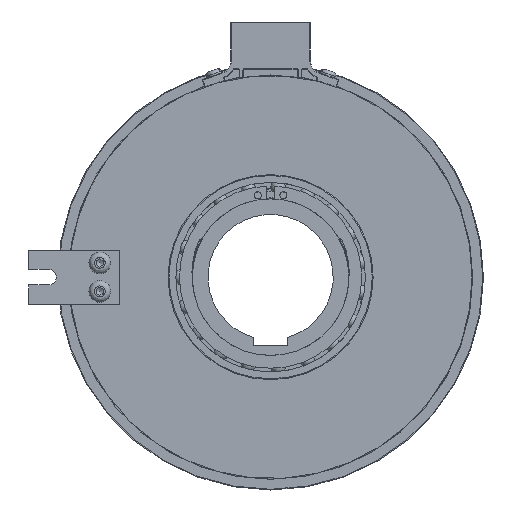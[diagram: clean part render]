
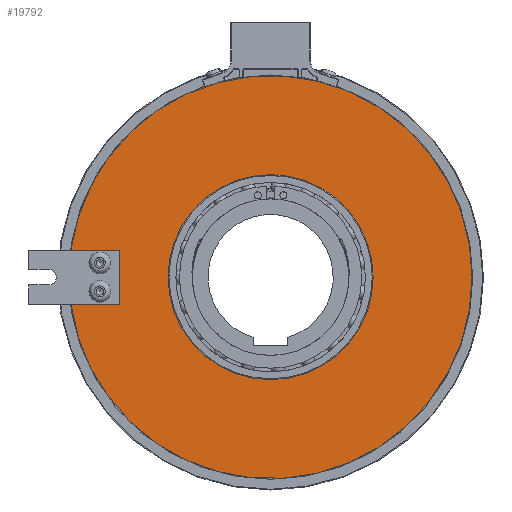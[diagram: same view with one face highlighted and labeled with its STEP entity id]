
A CAD part, left-side view. The second image highlights one B-rep face of the part: STEP entity #19792.
In plain terms, the highlighted planar face has unit normal (-1, 0, 0).
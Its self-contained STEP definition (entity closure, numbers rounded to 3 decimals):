
#1078=FACE_BOUND('',#3362,.T.);
#1471=PLANE('',#21623);
#2306=FACE_OUTER_BOUND('',#3361,.T.);
#3361=EDGE_LOOP('',(#14973,#14974,#14975,#14976,#14977));
#3362=EDGE_LOOP('',(#14978,#14979));
#4515=LINE('',#32014,#5153);
#4516=LINE('',#32016,#5154);
#4517=LINE('',#32017,#5155);
#5153=VECTOR('',#26097,10.);
#5154=VECTOR('',#26098,10.);
#5155=VECTOR('',#26099,10.);
#5348=CIRCLE('',#20364,70.75);
#5351=CIRCLE('',#20367,70.75);
#6150=CIRCLE('',#21624,36.);
#6151=CIRCLE('',#21625,36.);
#7029=VERTEX_POINT('',#29092);
#7030=VERTEX_POINT('',#29094);
#7031=VERTEX_POINT('',#29096);
#7881=VERTEX_POINT('',#32013);
#7882=VERTEX_POINT('',#32015);
#7883=VERTEX_POINT('',#32018);
#7884=VERTEX_POINT('',#32019);
#9252=EDGE_CURVE('',#7031,#7030,#5348,.T.);
#9256=EDGE_CURVE('',#7029,#7031,#5351,.T.);
#10544=EDGE_CURVE('',#7881,#7029,#4515,.T.);
#10545=EDGE_CURVE('',#7030,#7882,#4516,.T.);
#10546=EDGE_CURVE('',#7882,#7881,#4517,.T.);
#10547=EDGE_CURVE('',#7883,#7884,#6150,.T.);
#10548=EDGE_CURVE('',#7884,#7883,#6151,.T.);
#14973=ORIENTED_EDGE('',*,*,#10544,.T.);
#14974=ORIENTED_EDGE('',*,*,#9256,.T.);
#14975=ORIENTED_EDGE('',*,*,#9252,.T.);
#14976=ORIENTED_EDGE('',*,*,#10545,.T.);
#14977=ORIENTED_EDGE('',*,*,#10546,.T.);
#14978=ORIENTED_EDGE('',*,*,#10547,.F.);
#14979=ORIENTED_EDGE('',*,*,#10548,.F.);
#19792=ADVANCED_FACE('',(#2306,#1078),#1471,.T.);
#20364=AXIS2_PLACEMENT_3D('',#29097,#23122,#23123);
#20367=AXIS2_PLACEMENT_3D('',#29103,#23129,#23130);
#21623=AXIS2_PLACEMENT_3D('',#32012,#26095,#26096);
#21624=AXIS2_PLACEMENT_3D('',#32020,#26100,#26101);
#21625=AXIS2_PLACEMENT_3D('',#32021,#26102,#26103);
#23122=DIRECTION('center_axis',(-1.,0.,0.));
#23123=DIRECTION('ref_axis',(0.,1.,0.));
#23129=DIRECTION('center_axis',(-1.,0.,0.));
#23130=DIRECTION('ref_axis',(0.,1.,0.));
#26095=DIRECTION('center_axis',(-1.,0.,0.));
#26096=DIRECTION('ref_axis',(0.,0.,
1.));
#26097=DIRECTION('',(0.,1.,0.));
#26098=DIRECTION('',(0.,-1.,0.));
#26099=DIRECTION('',(0.,0.,-1.));
#26100=DIRECTION('center_axis',(-1.,0.,0.));
#26101=DIRECTION('ref_axis',(0.,1.,0.));
#26102=DIRECTION('center_axis',(-1.,0.,0.));
#26103=DIRECTION('ref_axis',(0.,1.,0.));
#29092=CARTESIAN_POINT('',(-42.3,70.109,-9.5));
#29094=CARTESIAN_POINT('',(-42.3,70.109,9.5));
#29096=CARTESIAN_POINT('',(-42.3,-70.75,0.));
#29097=CARTESIAN_POINT('Origin',(-42.3,0.,0.));
#29103=CARTESIAN_POINT('Origin',(-42.3,0.,0.));
#32012=CARTESIAN_POINT('Origin',(-42.3,53.375,0.));
#32013=CARTESIAN_POINT('',(-42.3,53.,-9.5));
#32014=CARTESIAN_POINT('',(-42.3,53.188,-9.5));
#32015=CARTESIAN_POINT('',(-42.3,53.,9.5));
#32016=CARTESIAN_POINT('',(-42.3,69.188,9.5));
#32017=CARTESIAN_POINT('',(-42.3,53.,4.75));
#32018=CARTESIAN_POINT('',(-42.3,36.,0.));
#32019=CARTESIAN_POINT('',(-42.3,-36.,0.));
#32020=CARTESIAN_POINT('Origin',(-42.3,0.,0.));
#32021=CARTESIAN_POINT('Origin',(-42.3,0.,0.));
